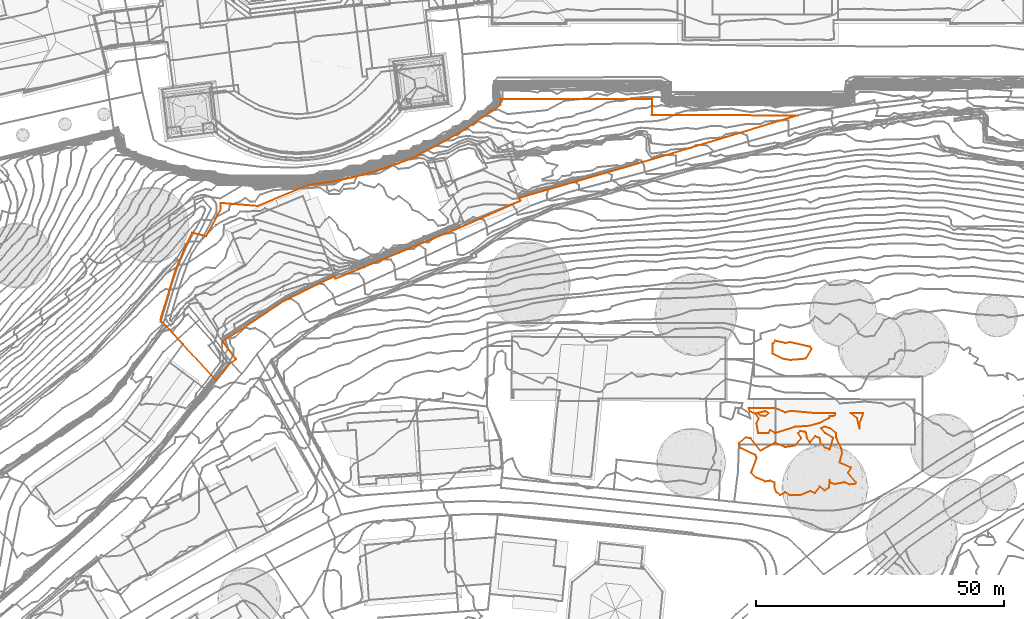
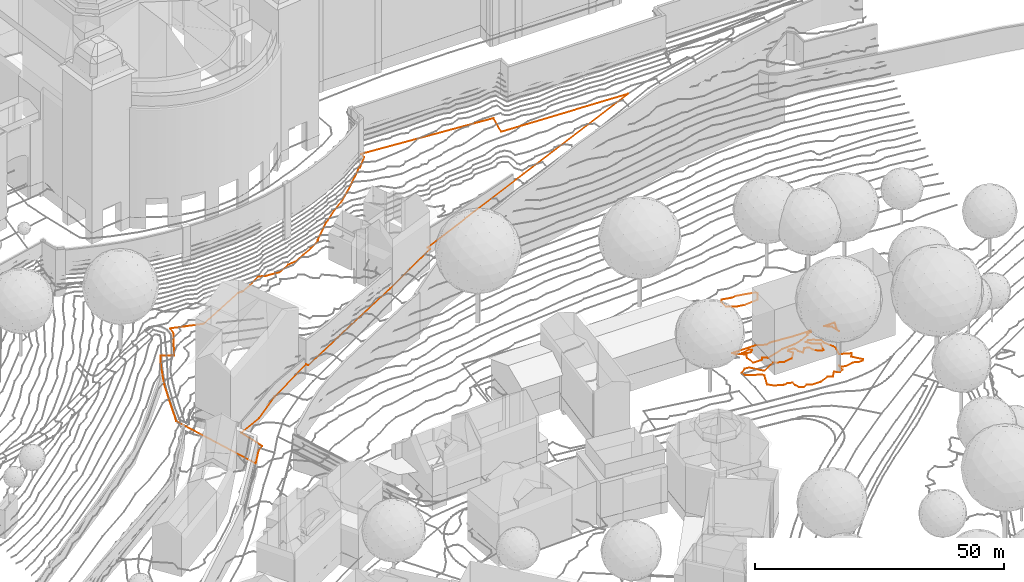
# Not in any storey, part 205 of 494: 6 proxies.
"""IFC2X3 model written with IfcOpenShell, lengths in metres."""

from ifc_helpers import new_model, entity, si_unit, frame, origin_with_axes, place, context, subcontext, project, element, save


model = new_model("IFC2X3")

# Units and contexts
model_context = context("Model", 3, precision=1e-05, world=origin_with_axes())
body_context = subcontext(model_context, "Body", "Model", "MODEL_VIEW")
ifc_project = project(units=[si_unit("AREAUNIT", "SQUARE_METRE"), si_unit("LENGTHUNIT", "METRE")], contexts=[model_context])

# Proxies
proxy_1_placement = place(None, frame((506.6017320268, 313.0397160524, 516.0135455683), z_axis=(0.0, 0.0, 1.0), x_axis=(1.0, 0.0, 0.0)))
element("IfcBuildingElementProxy", 1, at=proxy_1_placement, Name="Cadastre 37", ObjectType="NOTDEFINED", context=body_context, shape_type="GeometricCurveSet", body=[
    entity("IfcGeometricCurveSet", [entity("IfcPolyline", [entity("IfcCartesianPoint", [0.0, 0.0, 0.0]), entity("IfcCartesianPoint", [3.0600000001, 10.081, 1.6406185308]), entity("IfcCartesianPoint", [5.2399999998, 15.2720000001, 2.7861304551]), entity("IfcCartesianPoint", [6.4350000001, 17.5320000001, 3.2720663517]), entity("IfcCartesianPoint", [9.233, 16.8490000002, 2.6842204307]), entity("IfcCartesianPoint", [11.4750000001, 21.0110000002, 3.7265048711]), entity("IfcCartesianPoint", [12.1439999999, 22.2280000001, 4.041996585]), entity("IfcCartesianPoint", [12.1439999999, 23.5530000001, 4.2435837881]), entity("IfcCartesianPoint", [19.5720000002, 22.9380000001, 3.1266392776]), entity("IfcCartesianPoint", [30.0290000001, 27.2410000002, 4.4539032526]), entity("IfcCartesianPoint", [30.5630000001, 27.3, 4.3555789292]), entity("IfcCartesianPoint", [31.0970000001, 27.3640000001, 4.2990319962]), entity("IfcCartesianPoint", [33.077, 27.6300000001, 5.0294122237]), entity("IfcCartesianPoint", [35.048, 27.953, 6.2647272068]), entity("IfcCartesianPoint", [37.0099999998, 28.331, 5.4602994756]), entity("IfcCartesianPoint", [38.9589999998, 28.7650000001, 5.0285413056]), entity("IfcCartesianPoint", [40.8959999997, 29.2550000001, 4.4961991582]), entity("IfcCartesianPoint", [43.1459999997, 29.9130000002, 5.1149731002]), entity("IfcCartesianPoint", [45.3799999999, 30.6240000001, 4.7520919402]), entity("IfcCartesianPoint", [47.5970000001, 31.3870000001, 5.2102222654]), entity("IfcCartesianPoint", [49.7960000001, 32.2010000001, 5.4435960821]), entity("IfcCartesianPoint", [51.9750000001, 33.0660000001, 5.9976461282]), entity("IfcCartesianPoint", [51.9249999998, 33.186, 6.1559905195]), entity("IfcCartesianPoint", [54.6329999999, 34.5890000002, 8.4461596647]), entity("IfcCartesianPoint", [57.3199999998, 36.0330000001, 9.5868973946]), entity("IfcCartesianPoint", [59.9840000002, 37.517, 10.1685057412]), entity("IfcCartesianPoint", [61.7259999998, 38.6000000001, 10.8927702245]), entity("IfcCartesianPoint", [63.4369999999, 39.7340000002, 11.7554734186]), entity("IfcCartesianPoint", [65.1129999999, 40.9170000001, 12.5520296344]), entity("IfcCartesianPoint", [66.7539999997, 42.148, 13.4104545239]), entity("IfcCartesianPoint", [66.8640000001, 41.9880000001, 13.3886001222]), entity("IfcCartesianPoint", [68.6230000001, 43.398, 14.4035128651]), entity("IfcCartesianPoint", [68.6030000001, 44.5190000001, 14.5510963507]), entity("IfcCartesianPoint", [99.2709999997, 44.5110000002, 12.5941932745]), entity("IfcCartesianPoint", [99.1710000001, 41.2410000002, 11.256653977]), entity("IfcCartesianPoint", [128.5979999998, 41.233, 10.277871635]), entity("IfcCartesianPoint", [99.2609999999, 32.3600000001, 6.3227577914]), entity("IfcCartesianPoint", [72.4329999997, 24.567, 2.3626799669]), entity("IfcCartesianPoint", [72.6529999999, 23.997, 2.2629793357]), entity("IfcCartesianPoint", [60.2749999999, 18.5160000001, 0.2274703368]), entity("IfcCartesianPoint", [35.2969999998, 8.243, -3.6377120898]), entity("IfcCartesianPoint", [35.0869999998, 8.723, -3.5689073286]), entity("IfcCartesianPoint", [25.0180000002, 3.892, -5.1316342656]), entity("IfcCartesianPoint", [19.139, -0.1189999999, -5.8769923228]), entity("IfcCartesianPoint", [12.5490000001, -4.3639999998, -4.5771696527]), entity("IfcCartesianPoint", [15.2689999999, -7.9889999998, -6.5661116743]), entity("IfcCartesianPoint", [13.909, -8.97, -6.6595857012]), entity("IfcCartesianPoint", [11.3100000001, -12.2999999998, -6.8484008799]), entity("IfcCartesianPoint", [0.0, 0.0, 0.0])])]),
])
proxy_2_placement = place(None, frame((630.1749511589, 306.1707160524, 505.0), z_axis=(0.0, 0.0, 1.0), x_axis=(1.0, 0.0, 0.0)))
element("IfcBuildingElementProxy", 2, at=proxy_2_placement, Name="Contour Line 505.0 m", ObjectType="NOTDEFINED", context=body_context, shape_type="GeometricCurveSet", body=[
    entity("IfcGeometricCurveSet", [entity("IfcPolyline", [entity("IfcCartesianPoint", [6.6655412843, -1.0, 0.0]), entity("IfcCartesianPoint", [3.5027808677, -1.2658531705, 0.0]), entity("IfcCartesianPoint", [1.9421138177, -1.0, 0.0]), entity("IfcCartesianPoint", [0.0, 0.0, 0.0]), entity("IfcCartesianPoint", [0.0122820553, 2.0, 0.0]), entity("IfcCartesianPoint", [0.5027808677, 2.6251261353, 0.0]), entity("IfcCartesianPoint", [2.5027808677, 2.1580584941, 0.0]), entity("IfcCartesianPoint", [3.5027808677, 2.3307468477, 0.0]), entity("IfcCartesianPoint", [7.5027808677, 1.4023856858, 0.0]), entity("IfcCartesianPoint", [7.8796896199, 1.0, 0.0]), entity("IfcCartesianPoint", [6.6655412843, -1.0, 0.0])])]),
])
proxy_3_placement = place(None, frame((626.9616516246, 294.1707160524, 502.0), z_axis=(0.0, 0.0, 1.0), x_axis=(1.0, 0.0, 0.0)))
element("IfcBuildingElementProxy", 3, at=proxy_3_placement, Name="Contour Line 502.0 m", ObjectType="NOTDEFINED", context=body_context, shape_type="GeometricCurveSet", body=[
    entity("IfcGeometricCurveSet", [entity("IfcPolyline", [entity("IfcCartesianPoint", [2.3563070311, 0.0, 0.0]), entity("IfcCartesianPoint", [1.716080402, -0.6064400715, 0.0]), entity("IfcCartesianPoint", [0.716080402, -0.4581993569, 0.0]), entity("IfcCartesianPoint", [0.0, 0.0, 0.0]), entity("IfcCartesianPoint", [1.716080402, 0.4076969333, 0.0]), entity("IfcCartesianPoint", [2.3563070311, 0.0, 0.0])])]),
])
proxy_4_placement = place(None, frame((645.9219127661, 294.1707160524, 502.0), z_axis=(0.0, 0.0, 1.0), x_axis=(1.0, 0.0, 0.0)))
element("IfcBuildingElementProxy", 4, at=proxy_4_placement, Name="Contour Line 502.0 m", ObjectType="NOTDEFINED", context=body_context, shape_type="GeometricCurveSet", body=[
    entity("IfcGeometricCurveSet", [entity("IfcPolyline", [entity("IfcCartesianPoint", [1.7558192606, -3.0782163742, 0.0]), entity("IfcCartesianPoint", [1.7880073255, -2.0, 0.0]), entity("IfcCartesianPoint", [2.5207870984, 0.0, 0.0]), entity("IfcCartesianPoint", [0.0, 0.0, 0.0]), entity("IfcCartesianPoint", [1.2649557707, -1.0, 0.0]), entity("IfcCartesianPoint", [1.7558192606, -3.0782163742, 0.0])])]),
])
proxy_5_placement = place(None, frame((625.2589286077, 295.1707160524, 502.0), z_axis=(0.0, 0.0, 1.0), x_axis=(1.0, 0.0, 0.0)))
element("IfcBuildingElementProxy", 5, at=proxy_5_placement, Name="Contour Line 502.0 m", ObjectType="NOTDEFINED", context=body_context, shape_type="GeometricCurveSet", body=[
    entity("IfcGeometricCurveSet", [entity("IfcPolyline", [entity("IfcCartesianPoint", [5.418803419, -5.0202839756, 0.0]), entity("IfcCartesianPoint", [9.418803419, -3.7517455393, 0.0]), entity("IfcCartesianPoint", [12.418803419, -3.5302104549, 0.0]), entity("IfcCartesianPoint", [14.2413840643, -3.0, 0.0]), entity("IfcCartesianPoint", [16.2932428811, -2.0, 0.0]), entity("IfcCartesianPoint", [16.418803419, -1.5409836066, 0.0]), entity("IfcCartesianPoint", [17.418803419, -1.5378006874, 0.0]), entity("IfcCartesianPoint", [17.5162201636, -1.0, 0.0]), entity("IfcCartesianPoint", [13.418803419, -0.9929577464, 0.0]), entity("IfcCartesianPoint", [8.418803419, -0.5353037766, 0.0]), entity("IfcCartesianPoint", [7.418803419, -0.8538892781, 0.0]), entity("IfcCartesianPoint", [5.418803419, 0.0475604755, 0.0]), entity("IfcCartesianPoint", [0.0, 0.0, 0.0]), entity("IfcCartesianPoint", [0.418803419, -0.7295285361, 0.0]), entity("IfcCartesianPoint", [1.418803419, -1.1350059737, 0.0]), entity("IfcCartesianPoint", [2.1011785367, -2.0, 0.0]), entity("IfcCartesianPoint", [1.6584890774, -3.0, 0.0]), entity("IfcCartesianPoint", [1.9716630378, -5.0, 0.0]), entity("IfcCartesianPoint", [4.0359504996, -5.0, 0.0]), entity("IfcCartesianPoint", [4.418803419, -4.3913043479, 0.0]), entity("IfcCartesianPoint", [5.418803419, -5.0202839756, 0.0])])]),
])
proxy_6_placement = place(None, frame((623.3729926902, 288.1707160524, 502.0), z_axis=(0.0, 0.0, 1.0), x_axis=(1.0, 0.0, 0.0)))
element("IfcBuildingElementProxy", 6, at=proxy_6_placement, Name="Contour Line 502.0 m", ObjectType="NOTDEFINED", context=body_context, shape_type="GeometricCurveSet", body=[
    entity("IfcGeometricCurveSet", [entity("IfcPolyline", [entity("IfcCartesianPoint", [15.3047393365, -10.1420181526, 0.0]), entity("IfcCartesianPoint", [16.3047393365, -8.8322429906, 0.0]), entity("IfcCartesianPoint", [17.3047393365, -9.5751269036, 0.0]), entity("IfcCartesianPoint", [18.1669920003, -9.0, 0.0]), entity("IfcCartesianPoint", [18.3047393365, -7.510989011, 0.0]), entity("IfcCartesianPoint", [18.423406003, -8.0, 0.0]), entity("IfcCartesianPoint", [19.3047393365, -8.3061602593, 0.0]), entity("IfcCartesianPoint", [21.3047393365, -7.9454131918, 0.0]), entity("IfcCartesianPoint", [22.3047393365, -8.3819444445, 0.0]), entity("IfcCartesianPoint", [23.3047393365, -8.2797731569, 0.0]), entity("IfcCartesianPoint", [23.5953152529, -8.0, 0.0]), entity("IfcCartesianPoint", [21.9742884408, -6.0, 0.0]), entity("IfcCartesianPoint", [22.6401724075, -5.0, 0.0]), entity("IfcCartesianPoint", [20.2738355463, -4.0, 0.0]), entity("IfcCartesianPoint", [20.8057964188, -2.0, 0.0]), entity("IfcCartesianPoint", [20.6011395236, -1.0, 0.0]), entity("IfcCartesianPoint", [19.6402513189, 1.0, 0.0]), entity("IfcCartesianPoint", [19.5799686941, 2.0, 0.0]), entity("IfcCartesianPoint", [18.3047393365, 2.9649923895, 0.0]), entity("IfcCartesianPoint", [17.3047393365, 3.2866520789, 0.0]), entity("IfcCartesianPoint", [16.5789775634, 3.0, 0.0]), entity("IfcCartesianPoint", [17.3730714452, 2.0, 0.0]), entity("IfcCartesianPoint", [18.9607333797, 1.0, 0.0]), entity("IfcCartesianPoint", [18.3047393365, -1.3013937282, 0.0]), entity("IfcCartesianPoint", [17.3047393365, -0.9341603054, 0.0]), entity("IfcCartesianPoint", [16.482050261, 0.0, 0.0]), entity("IfcCartesianPoint", [16.2747992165, 1.0, 0.0]), entity("IfcCartesianPoint", [15.3047393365, 1.3424947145, 0.0]), entity("IfcCartesianPoint", [14.3047393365, 0.0906488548, 0.0]), entity("IfcCartesianPoint", [13.6981193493, 1.0, 0.0]), entity("IfcCartesianPoint", [13.561959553, 2.0, 0.0]), entity("IfcCartesianPoint", [13.3047393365, 2.2813425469, 0.0]), entity("IfcCartesianPoint", [12.3047393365, 2.368104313, 0.0]), entity("IfcCartesianPoint", [11.9572014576, 2.0, 0.0]), entity("IfcCartesianPoint", [12.5510808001, 1.0, 0.0]), entity("IfcCartesianPoint", [11.3047393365, -0.5372050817, 0.0]), entity("IfcCartesianPoint", [9.3047393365, -0.8530099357, 0.0]), entity("IfcCartesianPoint", [7.3047393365, 0.0230582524, 0.0]), entity("IfcCartesianPoint", [4.3047393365, -1.5371539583, 0.0]), entity("IfcCartesianPoint", [2.3047393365, 0.9295629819, 0.0]), entity("IfcCartesianPoint", [1.3047393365, 1.1124528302, 0.0]), entity("IfcCartesianPoint", [0.0, 0.0, 0.0]), entity("IfcCartesianPoint", [0.2217576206, -1.0, 0.0]), entity("IfcCartesianPoint", [3.3047393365, -2.4882198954, 0.0]), entity("IfcCartesianPoint", [3.5623150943, -3.0, 0.0]), entity("IfcCartesianPoint", [2.4473675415, -6.0, 0.0]), entity("IfcCartesianPoint", [3.4215357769, -7.0, 0.0]), entity("IfcCartesianPoint", [5.3047393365, -7.7744939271, 0.0]), entity("IfcCartesianPoint", [6.3047393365, -7.6410475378, 0.0]), entity("IfcCartesianPoint", [7.176197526, -8.0, 0.0]), entity("IfcCartesianPoint", [7.1836750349, -9.0, 0.0]), entity("IfcCartesianPoint", [7.5876122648, -10.0, 0.0]), entity("IfcCartesianPoint", [8.3047393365, -10.5043518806, 0.0]), entity("IfcCartesianPoint", [9.3047393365, -9.9760015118, 0.0]), entity("IfcCartesianPoint", [10.3047393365, -10.5573436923, 0.0]), entity("IfcCartesianPoint", [12.3047393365, -10.5470392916, 0.0]), entity("IfcCartesianPoint", [14.3047393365, -9.7152734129, 0.0]), entity("IfcCartesianPoint", [15.3047393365, -10.1420181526, 0.0])])]),
])

save(model, "model.ifc")
